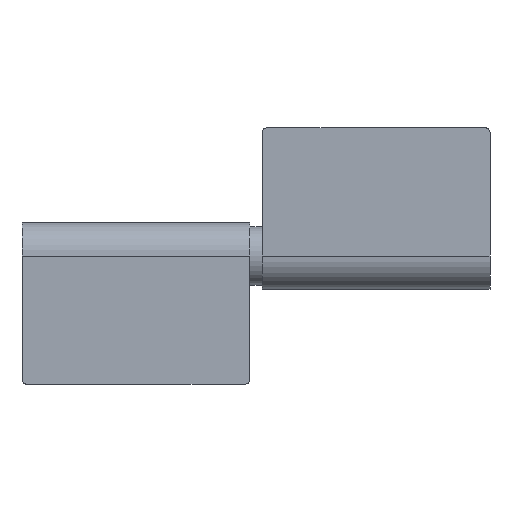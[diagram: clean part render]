
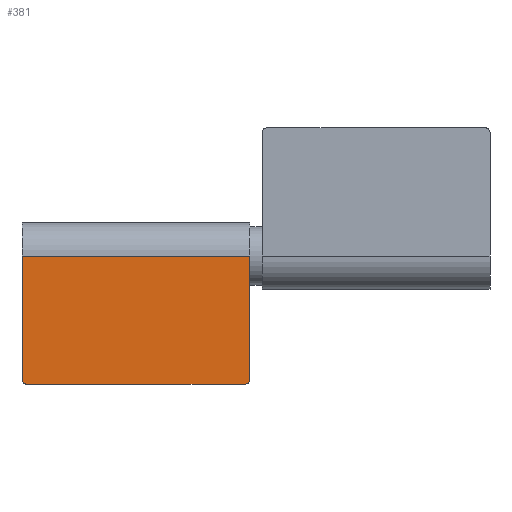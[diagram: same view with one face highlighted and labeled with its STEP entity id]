
A CAD part, front view. The second image highlights one B-rep face of the part: STEP entity #381.
In plain terms, the highlighted planar face has unit normal (0, -1, 0).
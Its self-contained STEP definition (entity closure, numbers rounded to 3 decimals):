
#4 = DIRECTION ( 'NONE',  ( 0., 1., 0. ) ) ;
#19 = CARTESIAN_POINT ( 'NONE',  ( -23., 0., -26. ) ) ;
#24 = DIRECTION ( 'NONE',  ( 0., -1., 0. ) ) ;
#28 = CARTESIAN_POINT ( 'NONE',  ( -24., 0., 0. ) ) ;
#53 = VERTEX_POINT ( 'NONE', #28 ) ;
#61 = FACE_OUTER_BOUND ( 'NONE', #453, .T. ) ;
#71 = ORIENTED_EDGE ( 'NONE', *, *, #828, .T. ) ;
#77 = VERTEX_POINT ( 'NONE', #543 ) ;
#82 = LINE ( 'NONE', #822, #95 ) ;
#95 = VECTOR ( 'NONE', #579, 1000. ) ;
#116 = DIRECTION ( 'NONE',  ( 0., 0., 1. ) ) ;
#129 = VECTOR ( 'NONE', #281, 1000. ) ;
#135 = CARTESIAN_POINT ( 'NONE',  ( -24., 0., 0. ) ) ;
#160 = VECTOR ( 'NONE', #537, 1000. ) ;
#195 = CARTESIAN_POINT ( 'NONE',  ( -24., 0., -26. ) ) ;
#221 = VERTEX_POINT ( 'NONE', #195 ) ;
#227 = VECTOR ( 'NONE', #947, 1000. ) ;
#281 = DIRECTION ( 'NONE',  ( 0., 0., -1. ) ) ;
#301 = ORIENTED_EDGE ( 'NONE', *, *, #443, .T. ) ;
#331 = LINE ( 'NONE', #478, #160 ) ;
#359 = DIRECTION ( 'NONE',  ( 0., -1., 0. ) ) ;
#361 = CIRCLE ( 'NONE', #809, 1. ) ;
#365 = ORIENTED_EDGE ( 'NONE', *, *, #749, .F. ) ;
#371 = ORIENTED_EDGE ( 'NONE', *, *, #814, .T. ) ;
#381 = ADVANCED_FACE ( 'NONE', ( #61 ), #674, .F. ) ;
#413 = CARTESIAN_POINT ( 'NONE',  ( 24., 0., -26. ) ) ;
#423 = AXIS2_PLACEMENT_3D ( 'NONE', #19, #24, #116 ) ;
#443 = EDGE_CURVE ( 'NONE', #77, #53, #82, .T. ) ;
#453 = EDGE_LOOP ( 'NONE', ( #371, #760, #659, #71, #365, #301 ) ) ;
#478 = CARTESIAN_POINT ( 'NONE',  ( 24., 0., -27. ) ) ;
#497 = CARTESIAN_POINT ( 'NONE',  ( 23., 0., -26. ) ) ;
#537 = DIRECTION ( 'NONE',  ( -1., 0., 0. ) ) ;
#543 = CARTESIAN_POINT ( 'NONE',  ( 24., 0., 0. ) ) ;
#550 = CARTESIAN_POINT ( 'NONE',  ( -23., 0., -27. ) ) ;
#566 = EDGE_CURVE ( 'NONE', #221, #735, #600, .T. ) ;
#577 = CARTESIAN_POINT ( 'NONE',  ( 24., 0., 0. ) ) ;
#579 = DIRECTION ( 'NONE',  ( -1., 0., 0. ) ) ;
#593 = VERTEX_POINT ( 'NONE', #413 ) ;
#600 = CIRCLE ( 'NONE', #423, 1. ) ;
#659 = ORIENTED_EDGE ( 'NONE', *, *, #690, .F. ) ;
#674 = PLANE ( 'NONE',  #821 ) ;
#687 = LINE ( 'NONE', #577, #227 ) ;
#690 = EDGE_CURVE ( 'NONE', #702, #735, #331, .T. ) ;
#702 = VERTEX_POINT ( 'NONE', #920 ) ;
#719 = DIRECTION ( 'NONE',  ( 0., 0., 1. ) ) ;
#735 = VERTEX_POINT ( 'NONE', #550 ) ;
#749 = EDGE_CURVE ( 'NONE', #77, #593, #687, .T. ) ;
#760 = ORIENTED_EDGE ( 'NONE', *, *, #566, .T. ) ;
#809 = AXIS2_PLACEMENT_3D ( 'NONE', #497, #359, #719 ) ;
#814 = EDGE_CURVE ( 'NONE', #53, #221, #960, .T. ) ;
#821 = AXIS2_PLACEMENT_3D ( 'NONE', #892, #4, #956 ) ;
#822 = CARTESIAN_POINT ( 'NONE',  ( 24., 0., 0. ) ) ;
#828 = EDGE_CURVE ( 'NONE', #702, #593, #361, .T. ) ;
#892 = CARTESIAN_POINT ( 'NONE',  ( 24., 0., 0. ) ) ;
#920 = CARTESIAN_POINT ( 'NONE',  ( 23., 0., -27. ) ) ;
#947 = DIRECTION ( 'NONE',  ( 0., 0., -1. ) ) ;
#956 = DIRECTION ( 'NONE',  ( 0., 0., 1. ) ) ;
#960 = LINE ( 'NONE', #135, #129 ) ;
